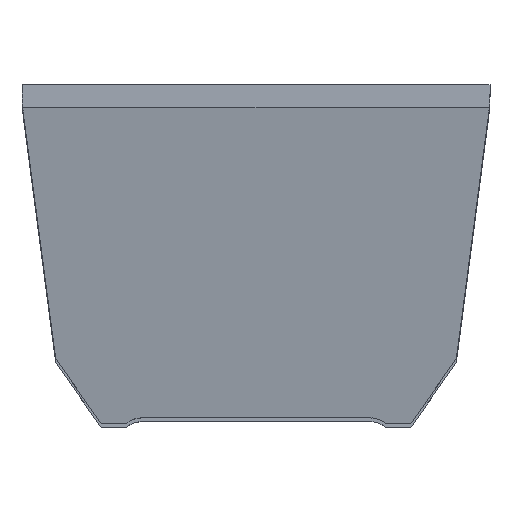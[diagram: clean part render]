
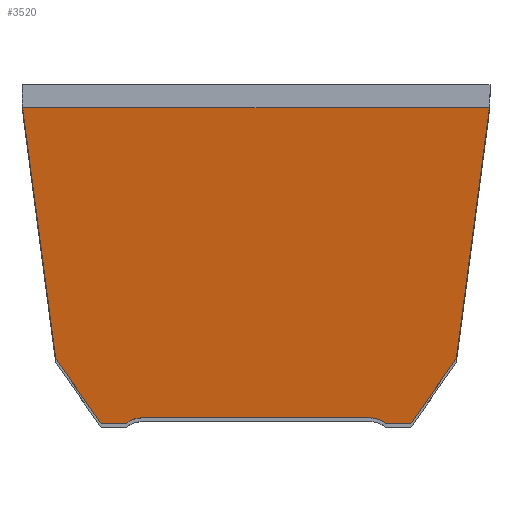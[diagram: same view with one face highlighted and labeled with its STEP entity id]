
A CAD part, top view. The second image highlights one B-rep face of the part: STEP entity #3520.
In plain terms, the highlighted planar face has unit normal (0, -0.147, 0.989).
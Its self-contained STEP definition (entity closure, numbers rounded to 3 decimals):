
#183 = ORIENTED_EDGE ( 'NONE', *, *, #3252, .F. ) ;
#184 = ORIENTED_EDGE ( 'NONE', *, *, #3050, .F. ) ;
#185 = ORIENTED_EDGE ( 'NONE', *, *, #3097, .F. ) ;
#187 = ORIENTED_EDGE ( 'NONE', *, *, #3073, .F. ) ;
#189 = ORIENTED_EDGE ( 'NONE', *, *, #3033, .F. ) ;
#190 = ORIENTED_EDGE ( 'NONE', *, *, #3206, .T. ) ;
#191 = ORIENTED_EDGE ( 'NONE', *, *, #3141, .F. ) ;
#192 = ORIENTED_EDGE ( 'NONE', *, *, #3209, .F. ) ;
#193 = ORIENTED_EDGE ( 'NONE', *, *, #3072, .F. ) ;
#194 = ORIENTED_EDGE ( 'NONE', *, *, #3274, .T. ) ;
#195 = ORIENTED_EDGE ( 'NONE', *, *, #3055, .F. ) ;
#196 = ORIENTED_EDGE ( 'NONE', *, *, #3182, .F. ) ;
#350 = EDGE_LOOP ( 'NONE', ( #196, #195, #194, #193, #192, #191, #190, #189, #187, #185, #184, #183 ) ) ;
#958 = LINE ( 'NONE', #2391, #3379 ) ;
#966 = LINE ( 'NONE', #2371, #969 ) ;
#968 = VECTOR ( 'NONE', #2384, 1000. ) ;
#969 = VECTOR ( 'NONE', #2378, 1000. ) ;
#972 = LINE ( 'NONE', #2383, #968 ) ;
#974 = VECTOR ( 'NONE', #2407, 1000. ) ;
#1228 = VECTOR ( 'NONE', #2518, 1000. ) ;
#1229 = LINE ( 'NONE', #2517, #1228 ) ;
#1240 = LINE ( 'NONE', #2511, #1247 ) ;
#1247 = VECTOR ( 'NONE', #2512, 1000. ) ;
#1251 = VECTOR ( 'NONE', #2495, 1000. ) ;
#1252 = LINE ( 'NONE', #2494, #1251 ) ;
#1374 = VERTEX_POINT ( 'NONE', #2162 ) ;
#1541 = VERTEX_POINT ( 'NONE', #2212 ) ;
#1559 = VERTEX_POINT ( 'NONE', #2230 ) ;
#1560 = VERTEX_POINT ( 'NONE', #2231 ) ;
#1589 = VERTEX_POINT ( 'NONE', #2260 ) ;
#1596 = VERTEX_POINT ( 'NONE', #2267 ) ;
#1608 = VERTEX_POINT ( 'NONE', #2279 ) ;
#1622 = VERTEX_POINT ( 'NONE', #2293 ) ;
#1647 = VERTEX_POINT ( 'NONE', #2318 ) ;
#1666 = VERTEX_POINT ( 'NONE', #2337 ) ;
#1669 = VERTEX_POINT ( 'NONE', #2340 ) ;
#1673 = VERTEX_POINT ( 'NONE', #2344 ) ;
#1691 =( BOUNDED_CURVE ( )  B_SPLINE_CURVE ( 3, ( #2545, #2548, #2549, #2550 ),
 .UNSPECIFIED., .F., .F. ) 
 B_SPLINE_CURVE_WITH_KNOTS ( ( 4, 4 ),
 ( 4.581, 4.616 ),
 .UNSPECIFIED. ) 
 CURVE ( )  GEOMETRIC_REPRESENTATION_ITEM ( )  RATIONAL_B_SPLINE_CURVE ( ( 1., 1., 1., 1. ) ) 
 REPRESENTATION_ITEM ( '' )  );
#1692 =( BOUNDED_CURVE ( )  B_SPLINE_CURVE ( 3, ( #2453, #2461, #2462, #2463 ),
 .UNSPECIFIED., .F., .T. ) 
 B_SPLINE_CURVE_WITH_KNOTS ( ( 4, 4 ),
 ( 5.61, 6.283 ),
 .UNSPECIFIED. ) 
 CURVE ( )  GEOMETRIC_REPRESENTATION_ITEM ( )  RATIONAL_B_SPLINE_CURVE ( ( 1., 0.963, 0.963, 1. ) ) 
 REPRESENTATION_ITEM ( '' )  );
#1693 =( BOUNDED_CURVE ( )  B_SPLINE_CURVE ( 3, ( #2424, #2427, #2428, #2429 ),
 .UNSPECIFIED., .F., .T. ) 
 B_SPLINE_CURVE_WITH_KNOTS ( ( 4, 4 ),
 ( 1.667, 1.702 ),
 .UNSPECIFIED. ) 
 CURVE ( )  GEOMETRIC_REPRESENTATION_ITEM ( )  RATIONAL_B_SPLINE_CURVE ( ( 1., 1., 1., 1. ) ) 
 REPRESENTATION_ITEM ( '' )  );
#1694 =( BOUNDED_CURVE ( )  B_SPLINE_CURVE ( 3, ( #2399, #2403, #2404, #2405 ),
 .UNSPECIFIED., .F., .T. ) 
 B_SPLINE_CURVE_WITH_KNOTS ( ( 4, 4 ),
 ( 0., 0.673 ),
 .UNSPECIFIED. ) 
 CURVE ( )  GEOMETRIC_REPRESENTATION_ITEM ( )  RATIONAL_B_SPLINE_CURVE ( ( 1., 0.963, 0.963, 1. ) ) 
 REPRESENTATION_ITEM ( '' )  );
#1716 = LINE ( 'NONE', #2566, #1717 ) ;
#1717 = VECTOR ( 'NONE', #2567, 1000. ) ;
#1849 = FACE_OUTER_BOUND ( 'NONE', #350, .T. ) ;
#2162 = CARTESIAN_POINT ( 'NONE',  ( -29.972, -4.3, 217.206 ) ) ;
#2212 = CARTESIAN_POINT ( 'NONE',  ( -38.738, 8.23, 219.063 ) ) ;
#2230 = CARTESIAN_POINT ( 'NONE',  ( -45.11, 56.725, 226.25 ) ) ;
#2231 = CARTESIAN_POINT ( 'NONE',  ( 44.993, 55.7, 226.098 ) ) ;
#2260 = CARTESIAN_POINT ( 'NONE',  ( -22., -3.21, 217.368 ) ) ;
#2267 = CARTESIAN_POINT ( 'NONE',  ( 38.738, 8.23, 219.063 ) ) ;
#2279 = CARTESIAN_POINT ( 'NONE',  ( -44.993, 55.7, 226.098 ) ) ;
#2293 = CARTESIAN_POINT ( 'NONE',  ( 45.11, 56.725, 226.25 ) ) ;
#2318 = CARTESIAN_POINT ( 'NONE',  ( 29.972, -4.3, 217.206 ) ) ;
#2337 = CARTESIAN_POINT ( 'NONE',  ( 22., -3.21, 217.368 ) ) ;
#2340 = CARTESIAN_POINT ( 'NONE',  ( 25.117, -4.3, 217.206 ) ) ;
#2344 = CARTESIAN_POINT ( 'NONE',  ( -25.117, -4.3, 217.206 ) ) ;
#2371 = CARTESIAN_POINT ( 'NONE',  ( 38.099, 7.317, 218.928 ) ) ;
#2378 = DIRECTION ( 'NONE',  ( -0.569, -0.813, -0.121 ) ) ;
#2383 = CARTESIAN_POINT ( 'NONE',  ( -15.25, 56.725, 226.25 ) ) ;
#2384 = DIRECTION ( 'NONE',  ( 1., 0., 0. ) ) ;
#2391 = CARTESIAN_POINT ( 'NONE',  ( -38.099, 7.317, 218.928 ) ) ;
#2394 = DIRECTION ( 'NONE',  ( -0.569, 0.813, 0.121 ) ) ;
#2399 = CARTESIAN_POINT ( 'NONE',  ( -22., -3.21, 217.368 ) ) ;
#2403 = CARTESIAN_POINT ( 'NONE',  ( -23.144, -3.21, 217.368 ) ) ;
#2404 = CARTESIAN_POINT ( 'NONE',  ( -24.223, -3.587, 217.312 ) ) ;
#2405 = CARTESIAN_POINT ( 'NONE',  ( -25.117, -4.3, 217.206 ) ) ;
#2406 = CARTESIAN_POINT ( 'NONE',  ( 44.686, 53.369, 225.753 ) ) ;
#2407 = DIRECTION ( 'NONE',  ( -0.129, -0.981, -0.145 ) ) ;
#2424 = CARTESIAN_POINT ( 'NONE',  ( 45.11, 56.725, 226.25 ) ) ;
#2427 = CARTESIAN_POINT ( 'NONE',  ( 45.077, 56.383, 226.199 ) ) ;
#2428 = CARTESIAN_POINT ( 'NONE',  ( 45.038, 56.041, 226.149 ) ) ;
#2429 = CARTESIAN_POINT ( 'NONE',  ( 44.993, 55.7, 226.098 ) ) ;
#2453 = CARTESIAN_POINT ( 'NONE',  ( 25.117, -4.3, 217.206 ) ) ;
#2461 = CARTESIAN_POINT ( 'NONE',  ( 24.223, -3.587, 217.312 ) ) ;
#2462 = CARTESIAN_POINT ( 'NONE',  ( 23.144, -3.21, 217.368 ) ) ;
#2463 = CARTESIAN_POINT ( 'NONE',  ( 22., -3.21, 217.368 ) ) ;
#2494 = CARTESIAN_POINT ( 'NONE',  ( -44.686, 53.369, 225.753 ) ) ;
#2495 = DIRECTION ( 'NONE',  ( -0.129, 0.981, 0.145 ) ) ;
#2511 = CARTESIAN_POINT ( 'NONE',  ( -600.047, -4.3, 217.206 ) ) ;
#2512 = DIRECTION ( 'NONE',  ( 1., 0., 0. ) ) ;
#2517 = CARTESIAN_POINT ( 'NONE',  ( -22., -3.21, 217.368 ) ) ;
#2518 = DIRECTION ( 'NONE',  ( -1., 0., 0. ) ) ;
#2545 = CARTESIAN_POINT ( 'NONE',  ( -44.993, 55.7, 226.098 ) ) ;
#2548 = CARTESIAN_POINT ( 'NONE',  ( -45.038, 56.041, 226.149 ) ) ;
#2549 = CARTESIAN_POINT ( 'NONE',  ( -45.077, 56.383, 226.199 ) ) ;
#2550 = CARTESIAN_POINT ( 'NONE',  ( -45.11, 56.725, 226.25 ) ) ;
#2566 = CARTESIAN_POINT ( 'NONE',  ( -600.047, -4.3, 217.206 ) ) ;
#2567 = DIRECTION ( 'NONE',  ( 1., 0., 0. ) ) ;
#2914 = PLANE ( 'NONE',  #3111 ) ;
#2917 = CARTESIAN_POINT ( 'NONE',  ( -600.047, 56.725, 226.25 ) ) ;
#2923 = DIRECTION ( 'NONE',  ( 0., 0.147, -0.989 ) ) ;
#2924 = DIRECTION ( 'NONE',  ( 0., -0.989, -0.147 ) ) ;
#3033 = EDGE_CURVE ( 'NONE', #1596, #1647, #966, .T. ) ;
#3050 = EDGE_CURVE ( 'NONE', #1559, #1622, #972, .T. ) ;
#3055 = EDGE_CURVE ( 'NONE', #1374, #1541, #958, .T. ) ;
#3072 = EDGE_CURVE ( 'NONE', #1589, #1673, #1694, .T. ) ;
#3073 = EDGE_CURVE ( 'NONE', #1560, #1596, #3592, .T. ) ;
#3097 = EDGE_CURVE ( 'NONE', #1622, #1560, #1693, .T. ) ;
#3111 = AXIS2_PLACEMENT_3D ( 'NONE', #2917, #2923, #2924 ) ;
#3141 = EDGE_CURVE ( 'NONE', #1669, #1666, #1692, .T. ) ;
#3182 = EDGE_CURVE ( 'NONE', #1541, #1608, #1252, .T. ) ;
#3206 = EDGE_CURVE ( 'NONE', #1669, #1647, #1240, .T. ) ;
#3209 = EDGE_CURVE ( 'NONE', #1666, #1589, #1229, .T. ) ;
#3252 = EDGE_CURVE ( 'NONE', #1608, #1559, #1691, .T. ) ;
#3274 = EDGE_CURVE ( 'NONE', #1374, #1673, #1716, .T. ) ;
#3379 = VECTOR ( 'NONE', #2394, 1000. ) ;
#3520 = ADVANCED_FACE ( 'NONE', ( #1849 ), #2914, .F. ) ;
#3592 = LINE ( 'NONE', #2406, #974 ) ;
